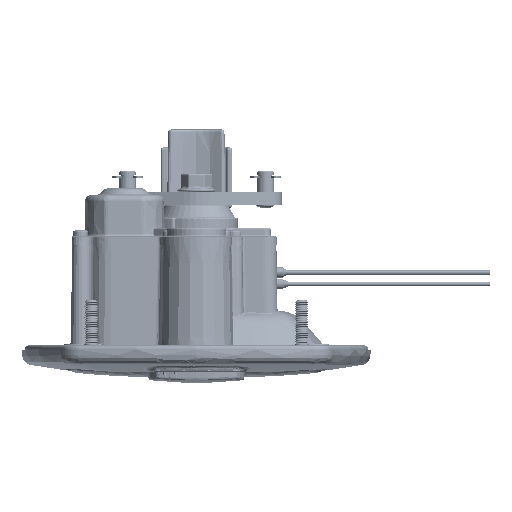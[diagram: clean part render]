
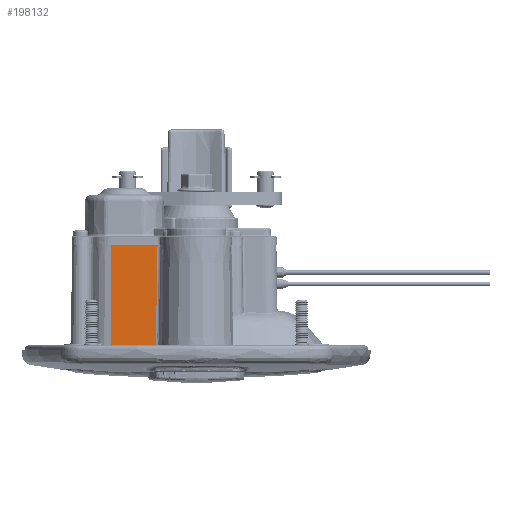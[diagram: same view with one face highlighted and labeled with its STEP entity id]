
A CAD part, front view. The second image highlights one B-rep face of the part: STEP entity #198132.
In plain terms, the highlighted planar face has unit normal (0, -1, 0.018).
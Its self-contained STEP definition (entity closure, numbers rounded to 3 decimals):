
#19716 = CARTESIAN_POINT ( 'NONE',  ( -12.6, -54., 38. ) ) ;
#19717 = PLANE ( 'NONE',  #194635 ) ;
#19722 = DIRECTION ( 'NONE',  ( 0., -1., 0.017 ) ) ;
#19724 = DIRECTION ( 'NONE',  ( 0., -0.017, -1. ) ) ;
#29499 = EDGE_LOOP ( 'NONE', ( #234529, #234530, #234532, #234534, #234536, #234538 ) ) ;
#55901 = VERTEX_POINT ( 'NONE', #132251 ) ;
#56013 = VERTEX_POINT ( 'NONE', #132475 ) ;
#56047 = VERTEX_POINT ( 'NONE', #132543 ) ;
#56061 = VERTEX_POINT ( 'NONE', #132571 ) ;
#83587 = B_SPLINE_CURVE_WITH_KNOTS ( 'NONE', 3,
 ( #103969, #103977, #103979, #103980, #103982, #103984, #103986 ),
 .UNSPECIFIED., .F., .F.,
 ( 4, 3, 4 ),
 ( 0., 0.018, 0.027 ),
 .UNSPECIFIED. ) ;
#83591 = B_SPLINE_CURVE_WITH_KNOTS ( 'NONE', 3,
 ( #103993, #104006, #104008, #104010 ),
 .UNSPECIFIED., .F., .F.,
 ( 4, 4 ),
 ( 0., 0.016 ),
 .UNSPECIFIED. ) ;
#83593 = B_SPLINE_CURVE_WITH_KNOTS ( 'NONE', 3,
 ( #104004, #104015, #104017, #104019 ),
 .UNSPECIFIED., .F., .F.,
 ( 4, 4 ),
 ( 0., 0. ),
 .UNSPECIFIED. ) ;
#88532 = CARTESIAN_POINT ( 'NONE',  ( -31., -54.728, -3.734 ) ) ;
#88578 = CARTESIAN_POINT ( 'NONE',  ( -31., -54., 38. ) ) ;
#94845 = LINE ( 'NONE', #104022, #94916 ) ;
#94880 = LINE ( 'NONE', #103966, #94898 ) ;
#94890 = VECTOR ( 'NONE', #103990, 1000. ) ;
#94898 = VECTOR ( 'NONE', #103967, 1000. ) ;
#94907 = LINE ( 'NONE', #103988, #94890 ) ;
#94916 = VECTOR ( 'NONE', #104024, 1000. ) ;
#103966 = CARTESIAN_POINT ( 'NONE',  ( -31., -54., 38. ) ) ;
#103967 = DIRECTION ( 'NONE',  ( 0., 0.017, 1. ) ) ;
#103969 = CARTESIAN_POINT ( 'NONE',  ( -14.747, -54.659, 0.248 ) ) ;
#103977 = CARTESIAN_POINT ( 'NONE',  ( -14.646, -54.553, 6.323 ) ) ;
#103979 = CARTESIAN_POINT ( 'NONE',  ( -14.544, -54.447, 12.398 ) ) ;
#103980 = CARTESIAN_POINT ( 'NONE',  ( -14.439, -54.341, 18.474 ) ) ;
#103982 = CARTESIAN_POINT ( 'NONE',  ( -14.389, -54.29, 21.397 ) ) ;
#103984 = CARTESIAN_POINT ( 'NONE',  ( -14.339, -54.239, 24.321 ) ) ;
#103986 = CARTESIAN_POINT ( 'NONE',  ( -14.288, -54.188, 27.244 ) ) ;
#103988 = CARTESIAN_POINT ( 'NONE',  ( -12.6, -54., 38. ) ) ;
#103990 = DIRECTION ( 'NONE',  ( 1., 0., 0. ) ) ;
#103993 = CARTESIAN_POINT ( 'NONE',  ( -30.529, -54.729, -3.757 ) ) ;
#104004 = CARTESIAN_POINT ( 'NONE',  ( -31., -54.728, -3.734 ) ) ;
#104006 = CARTESIAN_POINT ( 'NONE',  ( -25.35, -54.7, -2.101 ) ) ;
#104008 = CARTESIAN_POINT ( 'NONE',  ( -20.094, -54.676, -0.747 ) ) ;
#104010 = CARTESIAN_POINT ( 'NONE',  ( -14.747, -54.659, 0.248 ) ) ;
#104015 = CARTESIAN_POINT ( 'NONE',  ( -30.843, -54.729, -3.742 ) ) ;
#104017 = CARTESIAN_POINT ( 'NONE',  ( -30.686, -54.729, -3.75 ) ) ;
#104019 = CARTESIAN_POINT ( 'NONE',  ( -30.529, -54.729, -3.757 ) ) ;
#104022 = CARTESIAN_POINT ( 'NONE',  ( -14.099, -54., 38.026 ) ) ;
#104024 = DIRECTION ( 'NONE',  ( 0.017, 0.017, 1. ) ) ;
#130464 = VERTEX_POINT ( 'NONE', #88532 ) ;
#130516 = VERTEX_POINT ( 'NONE', #88578 ) ;
#132251 = CARTESIAN_POINT ( 'NONE',  ( -30.529, -54.729, -3.757 ) ) ;
#132475 = CARTESIAN_POINT ( 'NONE',  ( -14.288, -54.188, 27.244 ) ) ;
#132543 = CARTESIAN_POINT ( 'NONE',  ( -14.747, -54.659, 0.248 ) ) ;
#132571 = CARTESIAN_POINT ( 'NONE',  ( -14.1, -54., 38. ) ) ;
#194635 = AXIS2_PLACEMENT_3D ( 'NONE', #19716, #19722, #19724 ) ;
#198132 = ADVANCED_FACE ( 'NONE', ( #220926 ), #19717, .T. ) ;
#220926 = FACE_OUTER_BOUND ( 'NONE', #29499, .T. ) ;
#234529 = ORIENTED_EDGE ( 'NONE', *, *, #238777, .T. ) ;
#234530 = ORIENTED_EDGE ( 'NONE', *, *, #238775, .T. ) ;
#234532 = ORIENTED_EDGE ( 'NONE', *, *, #238771, .T. ) ;
#234534 = ORIENTED_EDGE ( 'NONE', *, *, #238778, .T. ) ;
#234536 = ORIENTED_EDGE ( 'NONE', *, *, #238772, .F. ) ;
#234538 = ORIENTED_EDGE ( 'NONE', *, *, #238768, .F. ) ;
#238768 = EDGE_CURVE ( 'NONE', #130464, #130516, #94880, .T. ) ;
#238771 = EDGE_CURVE ( 'NONE', #56047, #56013, #83587, .T. ) ;
#238772 = EDGE_CURVE ( 'NONE', #130516, #56061, #94907, .T. ) ;
#238775 = EDGE_CURVE ( 'NONE', #55901, #56047, #83591, .T. ) ;
#238777 = EDGE_CURVE ( 'NONE', #130464, #55901, #83593, .T. ) ;
#238778 = EDGE_CURVE ( 'NONE', #56013, #56061, #94845, .T. ) ;
